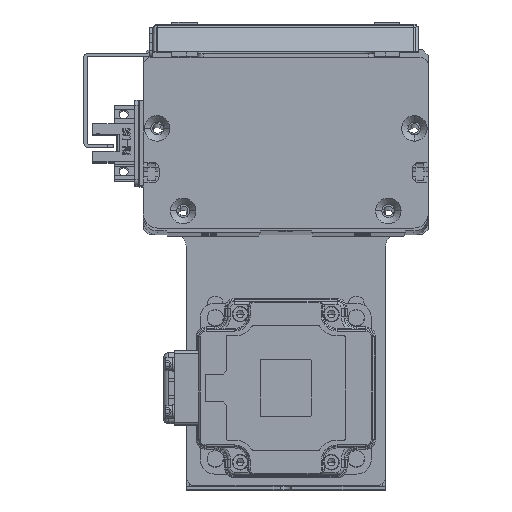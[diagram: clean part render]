
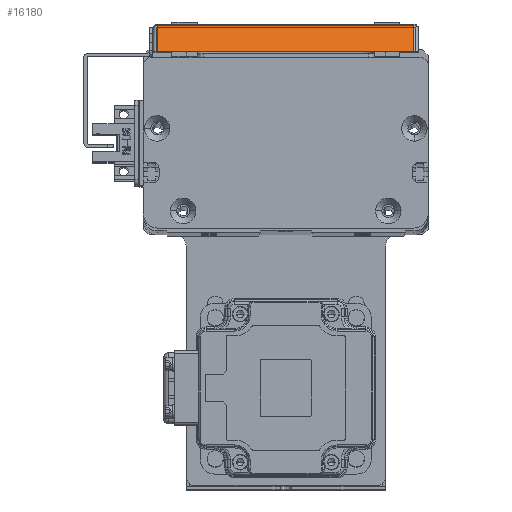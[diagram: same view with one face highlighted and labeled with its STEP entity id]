
A CAD part, top view. The second image highlights one B-rep face of the part: STEP entity #16180.
In plain terms, the highlighted planar face has unit normal (0, 0.707, 0.707) as drawn and (-0.707, 0, -0.707) by its records, which use the part's own axes.
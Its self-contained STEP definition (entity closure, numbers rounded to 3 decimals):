
#1346 = ORIENTED_EDGE ( 'NONE', *, *, #54381, .T. ) ;
#1642 = ORIENTED_EDGE ( 'NONE', *, *, #60047, .T. ) ;
#2988 = CARTESIAN_POINT ( 'NONE',  ( -57.298, 1.7, -5.102 ) ) ;
#6321 = EDGE_LOOP ( 'NONE', ( #1346, #40783, #1642, #62801 ) ) ;
#7027 = DIRECTION ( 'NONE',  ( 0., -1., 0. ) ) ;
#9707 = VERTEX_POINT ( 'NONE', #29332 ) ;
#9779 = CARTESIAN_POINT ( 'NONE',  ( -66.5, 93.4, 4.1 ) ) ;
#10018 = DIRECTION ( 'NONE',  ( -0.707, 0., 0.707 ) ) ;
#12030 = AXIS2_PLACEMENT_3D ( 'NONE', #25077, #30969, #14159 ) ;
#14159 = DIRECTION ( 'NONE',  ( -0.707, 0., 0.707 ) ) ;
#15274 = DIRECTION ( 'NONE',  ( 0., 1., 0. ) ) ;
#16180 = ADVANCED_FACE ( 'NONE', ( #40756 ), #63919, .T. ) ;
#18224 = EDGE_CURVE ( 'NONE', #57138, #28256, #23512, .T. ) ;
#20946 = CARTESIAN_POINT ( 'NONE',  ( -68., 1.7, 5.6 ) ) ;
#21726 = LINE ( 'NONE', #44985, #50652 ) ;
#21804 = VECTOR ( 'NONE', #7027, 1000. ) ;
#23512 = LINE ( 'NONE', #45071, #21804 ) ;
#23525 = CARTESIAN_POINT ( 'NONE',  ( -66.5, 1.7, 4.1 ) ) ;
#25077 = CARTESIAN_POINT ( 'NONE',  ( -68., 93.4, 5.6 ) ) ;
#28256 = VERTEX_POINT ( 'NONE', #2988 ) ;
#28572 = DIRECTION ( 'NONE',  ( 0.707, 0., -0.707 ) ) ;
#29332 = CARTESIAN_POINT ( 'NONE',  ( -66.5, 91.7, 4.1 ) ) ;
#30969 = DIRECTION ( 'NONE',  ( -0.707, 0., -0.707 ) ) ;
#40756 = FACE_OUTER_BOUND ( 'NONE', #6321, .T. ) ;
#40783 = ORIENTED_EDGE ( 'NONE', *, *, #48997, .T. ) ;
#44985 = CARTESIAN_POINT ( 'NONE',  ( -68., 91.7, 5.6 ) ) ;
#45071 = CARTESIAN_POINT ( 'NONE',  ( -57.298, 93.4, -5.102 ) ) ;
#47243 = VECTOR ( 'NONE', #10018, 1000. ) ;
#48914 = LINE ( 'NONE', #20946, #47243 ) ;
#48997 = EDGE_CURVE ( 'NONE', #54657, #9707, #55126, .T. ) ;
#50652 = VECTOR ( 'NONE', #28572, 1000. ) ;
#54381 = EDGE_CURVE ( 'NONE', #28256, #54657, #48914, .T. ) ;
#54657 = VERTEX_POINT ( 'NONE', #23525 ) ;
#55126 = LINE ( 'NONE', #9779, #59311 ) ;
#56665 = CARTESIAN_POINT ( 'NONE',  ( -57.298, 91.7, -5.102 ) ) ;
#57138 = VERTEX_POINT ( 'NONE', #56665 ) ;
#59311 = VECTOR ( 'NONE', #15274, 1000. ) ;
#60047 = EDGE_CURVE ( 'NONE', #9707, #57138, #21726, .T. ) ;
#62801 = ORIENTED_EDGE ( 'NONE', *, *, #18224, .T. ) ;
#63919 = PLANE ( 'NONE',  #12030 ) ;
